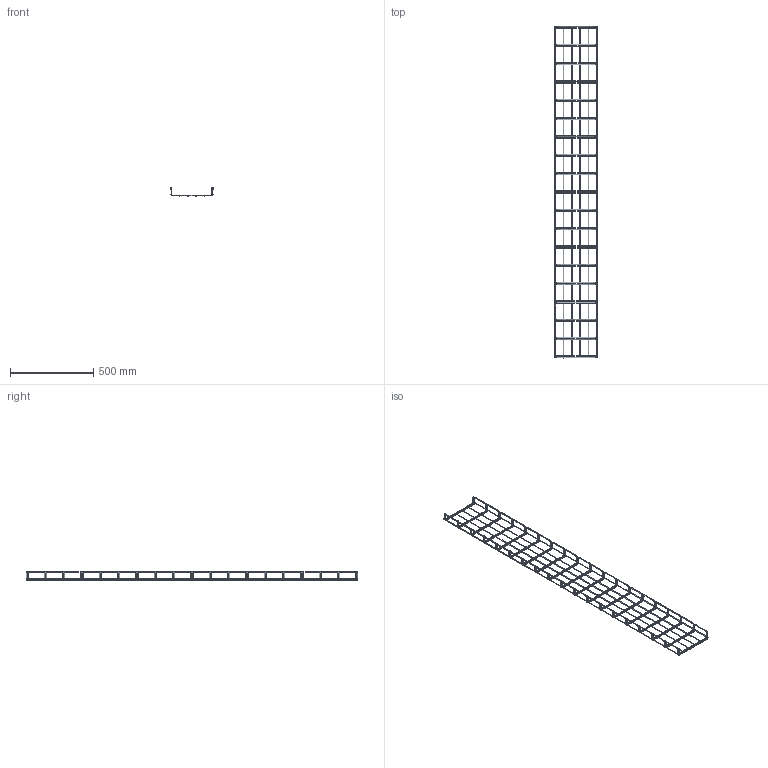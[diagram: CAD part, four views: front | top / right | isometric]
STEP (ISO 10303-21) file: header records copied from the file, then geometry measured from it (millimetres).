
FILE_DESCRIPTION(/* description */ (''),/* implementation_level */ '2;1');
FILE_NAME(/* name */ 'M2_250×050',/* time_stamp */ '2012-11-29T22:10:37+01:00',/* author */ (''),/* organization */ (''),/* preprocessor_version */ 'ST-DEVELOPER v10',/* originating_system */ '',/* authorisation */ '');
FILE_SCHEMA (('AUTOMOTIVE_DESIGN_CC2'));
Length unit declared in the file: millimetre
Products named in the file (1): 1
Bounding box: 254.19 x 1993.51 x 53.94 mm (x, y, z)
Surface area: 343642.2 mm2 (no closed solid volume)
Topology: 0 solids, 324 shells, 632 faces, 1864 edges, 1248 vertices
Faces by surface type: bspline 616, plane 16
Entity records: 52868 total; most frequent: CARTESIAN_POINT 41004, ORIENTED_EDGE 2480, EDGE_CURVE 1864, VERTEX_POINT 1248, B_SPLINE_CURVE_WITH_KNOTS 688, ADVANCED_FACE 632, FACE_OUTER_BOUND 632, EDGE_LOOP 632
